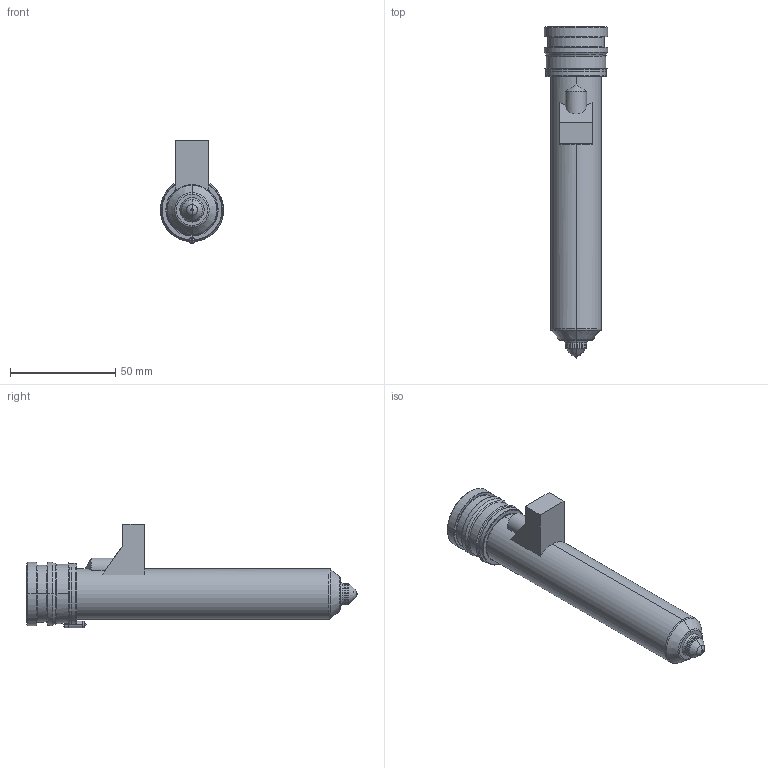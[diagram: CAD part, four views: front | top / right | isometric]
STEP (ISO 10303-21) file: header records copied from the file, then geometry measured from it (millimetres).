
FILE_DESCRIPTION((''),'2;1');
FILE_NAME('MPN-10-29-VX10-136-M','2026-02-05T12:57:14',('UPTIO'),('Thermoplay S.p.A.'),'CREO PARAMETRIC BY PTC INC, 2023494','CREO PARAMETRIC BY PTC INC, 2023494','');
FILE_SCHEMA(('CONFIG_CONTROL_DESIGN','SHAPE_APPEARANCE_LAYERS_GROUPS'));
Length unit declared in the file: millimetre
Products named in the file (1): MPN-10-29-VX10-136-M
Bounding box: 30 x 157.5 x 49 mm (x, y, z)
Volume: 49004.1 mm3; surface area: 50501.8 mm2
Topology: 3 solids, 5 shells, 547 faces, 1387 edges, 846 vertices
Faces by surface type: cylinder 179, plane 147, torus 71, bspline 70, cone 68, sphere 8, extrusion 4
Entity records: 28729 total; most frequent: CARTESIAN_POINT 12764, ORIENTED_EDGE 2760, DIRECTION 2638, EDGE_CURVE 1380, AXIS2_PLACEMENT_3D 1050, VERTEX_POINT 846, EDGE_LOOP 576, CIRCLE 576
